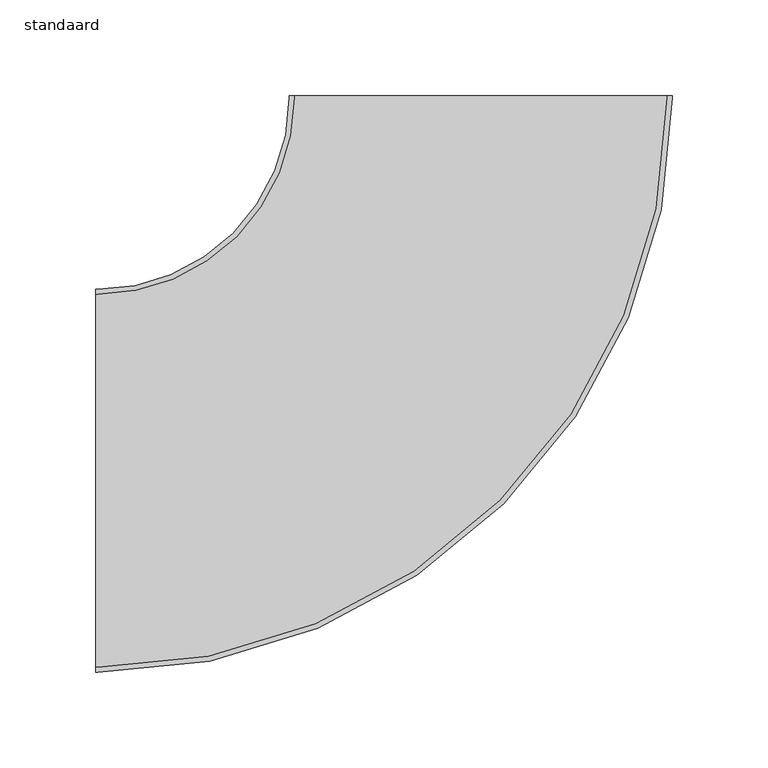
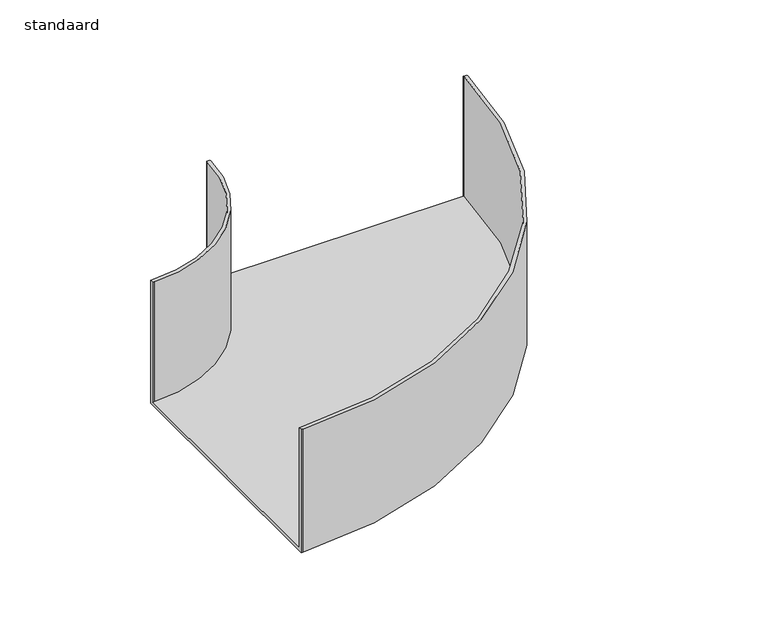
"""IFC4 building model written with IfcOpenShell, lengths in millimetres: cable carrier fitting geometry, AI_Raccord cdc_Coude horizontal rayon court : standaard."""

from ifc_helpers import new_model, si_unit, frame, origin, place, context, project, spatial, polyline, circle_curve, source, transform, mapped, element, save
from ifc_brep_helpers import plane_surface, cylinder_surface, revolved_surface, advanced_brep


def standaard_d5fcd458(model_context):
    return source(origin(), model_context, "Body", "AdvancedBrep", [
        advanced_brep(
        [(-201.0, -100.0, -50.0), (-201.0, -100.0, 50.0), (-201.0, -97.46, 50.0), (-201.0, -97.46, -47.46), (-201.0, 97.46, -47.46), (-201.0, 97.46, 50.0), (-201.0, 100.0, 50.0), (-201.0, 100.0, -50.0), (100.0, 201.0, -50.0), (-100.0, 201.0, -50.0), (-100.0, 201.0, 50.0), (-97.46, 201.0, 50.0), (-97.46, 201.0, -47.46), (97.46, 201.0, -47.46), (97.46, 201.0, 50.0), (100.0, 201.0, 50.0), (-200.0, -100.0, -50.0), (-200.0, -100.0, 50.0), (100.0, 200.0, 50.0), (97.46, 200.0, 50.0), (-200.0, -97.46, 50.0), (-200.0, -97.46, -47.46), (97.46, 200.0, -47.46), (-97.46, 200.0, -47.46), (-200.0, 97.46, -47.46), (-200.0, 97.46, 50.0), (-97.46, 200.0, 50.0), (-100.0, 200.0, 50.0), (-200.0, 100.0, 50.0), (-200.0, 100.0, -50.0), (-100.0, 200.0, -50.0), (100.0, 200.0, -50.0)],
        [
            (0, 1),
            (1, 2),
            (2, 3),
            (3, 4),
            (4, 5),
            (5, 6),
            (6, 7),
            (7, 0),
            (8, 9),
            (9, 10),
            (10, 11),
            (11, 12),
            (12, 13),
            (13, 14),
            (14, 15),
            (15, 8),
            (0, 16),
            (16, 17),
            (17, 1),
            (17, 18, circle_curve(frame((-200.0, 200.0, 50.0), z_axis=(0.0, 0.0, 1.0), x_axis=(0.0, -1.0, 0.0)), 300.0)),
            (18, 15),
            (14, 19),
            (19, 20, circle_curve(frame((-200.0, 200.0, 50.0), z_axis=(0.0, 0.0, -1.0), x_axis=(0.0, -1.0, 0.0)), 297.46)),
            (20, 2),
            (20, 21),
            (21, 3),
            (21, 22, circle_curve(frame((-200.0, 200.0, -47.46), z_axis=(0.0, 0.0, 1.0), x_axis=(0.0, -1.0, 0.0)), 297.46)),
            (22, 13),
            (12, 23),
            (23, 24, circle_curve(frame((-200.0, 200.0, -47.46), z_axis=(0.0, 0.0, -1.0), x_axis=(0.0, -1.0, 0.0)), 102.54)),
            (24, 4),
            (24, 25),
            (25, 5),
            (25, 26, circle_curve(frame((-200.0, 200.0, 50.0), z_axis=(0.0, 0.0, 1.0), x_axis=(0.0, -1.0, 0.0)), 102.54)),
            (26, 11),
            (10, 27),
            (27, 28, circle_curve(frame((-200.0, 200.0, 50.0), z_axis=(0.0, 0.0, -1.0), x_axis=(0.0, -1.0, 0.0)), 100.0)),
            (28, 6),
            (28, 29),
            (29, 7),
            (29, 30, circle_curve(frame((-200.0, 200.0, -50.0), z_axis=(0.0, 0.0, 1.0), x_axis=(0.0, -1.0, 0.0)), 100.0)),
            (30, 9),
            (8, 31),
            (31, 16, circle_curve(frame((-200.0, 200.0, -50.0), z_axis=(0.0, 0.0, -1.0), x_axis=(0.0, -1.0, 0.0)), 300.0)),
            (31, 18),
            (19, 22),
            (23, 26),
            (27, 30),
        ],
        [
            plane_surface(frame((-201.0, 0.0, 0.0), z_axis=(-1.0, -4.894051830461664e-12, 0.0), x_axis=(0.0, 0.0, 1.0))),
            plane_surface(frame((0.0, 201.0, 0.0), z_axis=(0.0, 1.0, 0.0), x_axis=(0.0, 0.0, 1.0))),
            plane_surface(frame((-201.0, -100.0, -50.0), z_axis=(4.906741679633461e-12, -1.0, 0.0), x_axis=(1.0, 4.906741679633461e-12, 0.0))),
            plane_surface(frame((-201.0, -100.0, 50.0), z_axis=(0.0, 0.0, 1.0), x_axis=(1.0, 4.906741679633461e-12, 0.0))),
            plane_surface(frame((-201.0, -97.46, 50.0), z_axis=(-4.889821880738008e-12, 1.0, 0.0), x_axis=(1.0, 4.889821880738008e-12, 0.0))),
            plane_surface(frame((-201.0, -97.46, -47.46), z_axis=(0.0, 0.0, 1.0), x_axis=(1.0, 4.872902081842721e-12, 0.0))),
            plane_surface(frame((-201.0, 97.46, -47.46), z_axis=(4.889821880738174e-12, -1.0, 0.0), x_axis=(1.0, 4.889821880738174e-12, 0.0))),
            plane_surface(frame((-201.0, 97.46, 50.0), z_axis=(0.0, 0.0, 1.0), x_axis=(1.0, 4.889821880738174e-12, 0.0))),
            plane_surface(frame((-201.0, 100.0, 50.0), z_axis=(-4.889821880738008e-12, 1.0, 0.0), x_axis=(1.0, 4.889821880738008e-12, 0.0))),
            plane_surface(frame((-201.0, 100.0, -50.0), z_axis=(0.0, 0.0, -1.0), x_axis=(1.0, 4.889821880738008e-12, 0.0))),
            cylinder_surface(frame((-200.0, 200.0, 0.0), z_axis=(0.0, 0.0, 1.0), x_axis=(0.0, -1.0, 0.0)), 300.0),
            revolved_surface(polyline([(-200.0, -97.45999999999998, 50.0), (-200.0, -97.45999999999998, -47.46)]), (-200.0, 200.0, 0.0), (0.0, 0.0, 1.0)),
            cylinder_surface(frame((-200.0, 200.0, 0.0), z_axis=(0.0, 0.0, 1.0), x_axis=(0.0, -1.0, 0.0)), 102.54),
            revolved_surface(polyline([(-200.0, 100.0, 50.0), (-200.0, 100.0, -50.0)]), (-200.0, 200.0, 0.0), (0.0, 0.0, 1.0)),
            plane_surface(frame((100.0, 200.0, -50.0), z_axis=(1.0, 0.0, 0.0), x_axis=(0.0, 1.0, 0.0))),
            plane_surface(frame((97.46, 200.0, 50.0), z_axis=(-1.0, 0.0, 0.0), x_axis=(0.0, 1.0, 0.0))),
            plane_surface(frame((-97.46, 200.0, -47.46), z_axis=(1.0, 0.0, 0.0), x_axis=(0.0, 1.0, 0.0))),
            plane_surface(frame((-100.0, 200.0, 50.0), z_axis=(-1.0, 0.0, 0.0), x_axis=(0.0, 1.0, 0.0))),
        ],
        [
            (0, [[1, 2, 3, 4, 5, 6, 7, 8]]),
            (1, [[9, 10, 11, 12, 13, 14, 15, 16]]),
            (2, [[-1, 17, 18, 19]]),
            (3, [[-2, -19, 20, 21, -15, 22, 23, 24]]),
            (4, [[-3, -24, 25, 26]]),
            (5, [[-4, -26, 27, 28, -13, 29, 30, 31]]),
            (6, [[-5, -31, 32, 33]]),
            (7, [[-6, -33, 34, 35, -11, 36, 37, 38]]),
            (8, [[-7, -38, 39, 40]]),
            (9, [[-8, -40, 41, 42, -9, 43, 44, -17]]),
            (10, [[-20, -18, -44, 45]]),
            (11, [[-27, -25, -23, 46]]),
            (12, [[-34, -32, -30, 47]]),
            (13, [[-41, -39, -37, 48]]),
            (14, [[-45, -43, -16, -21]]),
            (15, [[-46, -22, -14, -28]]),
            (16, [[-47, -29, -12, -35]]),
            (17, [[-48, -36, -10, -42]]),
        ],
    ),
    ])


if __name__ == "__main__":
    model = new_model("IFC4")
    model_context = context("Model", 3, world=origin())
    ifc_project = project(units=[si_unit("LENGTHUNIT", "METRE", prefix="MILLI")], contexts=[model_context])
    site = spatial("IfcSite", under=ifc_project)
    building = spatial("IfcBuilding", under=site)
    placement = place(None, origin())
    standaard_shape = standaard_d5fcd458(model_context)
    element("IfcCableCarrierFitting", 1, ObjectType="AI_Raccord cdc_Coude horizontal rayon court : standaard", at=placement, inside=building, context=model_context, shape_type="MappedRepresentation", body=[
        mapped(standaard_shape, transform((0.0, 0.0, 0.0), x_axis=(1.0, 0.0, 0.0), y_axis=(0.0, 1.0, 0.0), z_axis=(0.0, 0.0, 1.0))),
    ])
    save(model, "model.ifc")
